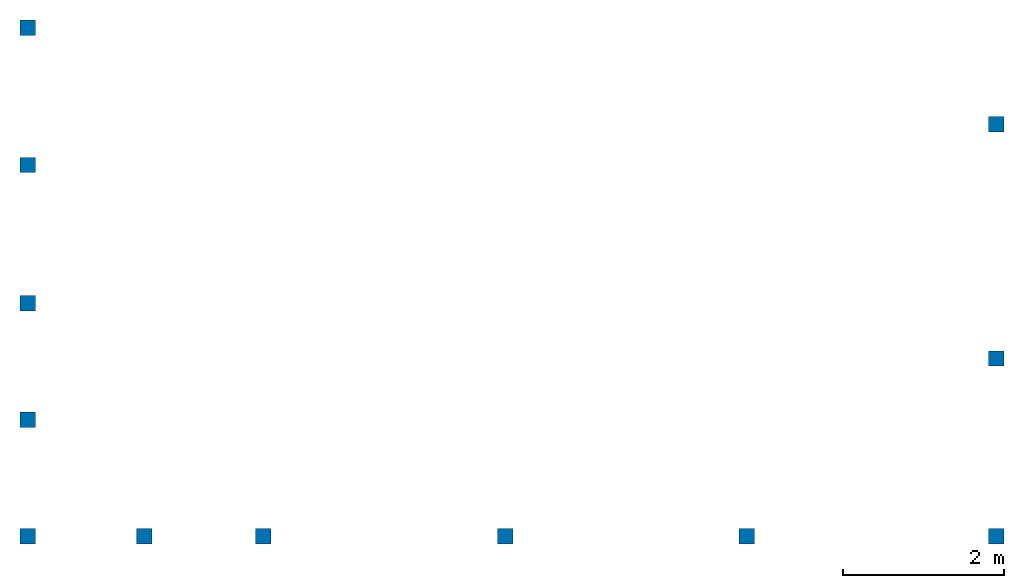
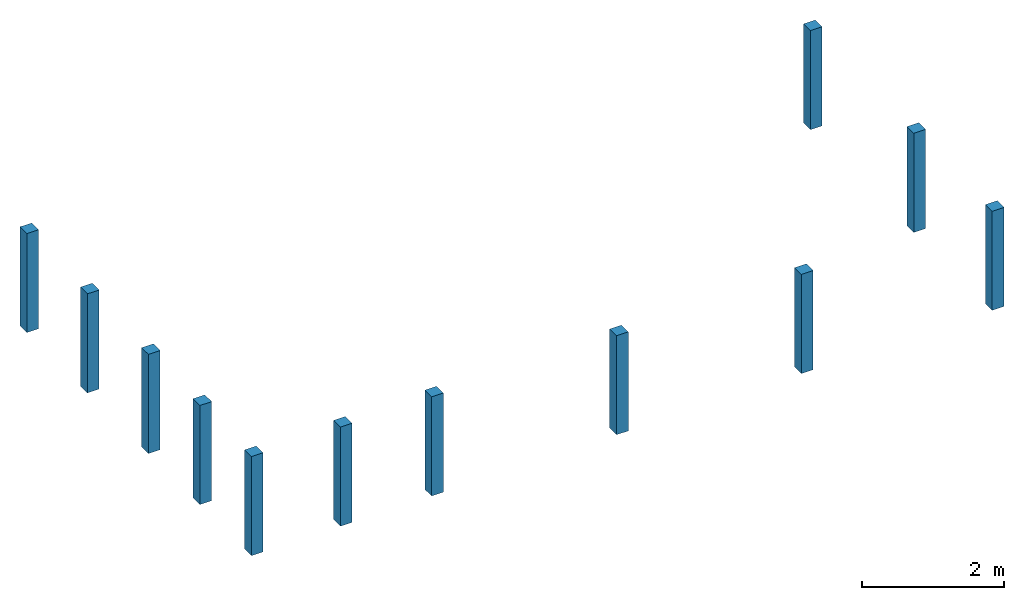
# One storey: 12 columns.
"""IFC2X3 building model written with IfcOpenShell, lengths in metres."""

from ifc_helpers import new_model, entity, si_unit, converted_unit, derived_unit, direction, frame, origin, origin_2d_with_axis, place, context, subcontext, project, spatial, rectangle, extrude, source, transform, mapped, material, type_object, type_shapes, element, save


model = new_model("IFC2X3")

# Units and contexts
model_context = context("Model", 3, precision=1e-05, world=origin(), true_north=direction((6.12303176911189e-17, 1.0)))
context_of_model = context(None, 3, precision=1e-05, world=origin(), true_north=direction((6.12303176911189e-17, 1.0)))
body_context = subcontext(model_context, "Body", "Model", "MODEL_VIEW")
ifc_project = project(units=[si_unit("LENGTHUNIT", "METRE"), si_unit("AREAUNIT", "SQUARE_METRE"), si_unit("VOLUMEUNIT", "CUBIC_METRE"), converted_unit("PLANEANGLEUNIT", "DEGREE", entity("IfcRatioMeasure", 0.0174532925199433), si_unit("PLANEANGLEUNIT", "RADIAN"), dimensions=[0, 0, 0, 0, 0, 0, 0]), si_unit("MASSUNIT", "GRAM", prefix="KILO"), si_unit("TIMEUNIT", "SECOND"), si_unit("FREQUENCYUNIT", "HERTZ"), si_unit("THERMODYNAMICTEMPERATUREUNIT", "DEGREE_CELSIUS"), derived_unit("THERMALTRANSMITTANCEUNIT", [(si_unit("MASSUNIT", "GRAM", prefix="KILO"), 1), (si_unit("THERMODYNAMICTEMPERATUREUNIT", "KELVIN"), -1), (si_unit("TIMEUNIT", "SECOND"), -3)]), derived_unit("VOLUMETRICFLOWRATEUNIT", [(si_unit("LENGTHUNIT", "METRE"), 3), (si_unit("TIMEUNIT", "SECOND"), -1)]), si_unit("ELECTRICCURRENTUNIT", "AMPERE"), si_unit("ELECTRICVOLTAGEUNIT", "VOLT"), si_unit("POWERUNIT", "WATT"), si_unit("FORCEUNIT", "NEWTON", prefix="KILO"), si_unit("ILLUMINANCEUNIT", "LUX"), si_unit("LUMINOUSFLUXUNIT", "LUMEN"), si_unit("LUMINOUSINTENSITYUNIT", "CANDELA"), si_unit("PRESSUREUNIT", "PASCAL")], contexts=[model_context, context_of_model])

# Site, building, storey
site_placement = place(None, origin())
site = spatial("IfcSite", under=ifc_project, at=site_placement, Name="Default", CompositionType="ELEMENT")
building_placement = place(site_placement, origin())
building = spatial("IfcBuilding", under=site, at=building_placement, CompositionType="ELEMENT")
storey_placement = place(building_placement, frame((0.0, 0.0, 3.89999999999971)))
storey = spatial("IfcBuildingStorey", under=building, at=storey_placement, Name="1 - Arase sup GC", CompositionType="ELEMENT", Elevation=3.89999999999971)

# Columns
ifc_material = material(Name="Bois - Bois de construction de dimensions courantes")
column_type = type_object("IfcColumnType", Name="191 x 191mm", PredefinedType="COLUMN", material=ifc_material)
shared_shape = source(origin(), body_context, "Body", "SweptSolid", [
    extrude(rectangle(XDim=0.190999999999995, YDim=0.191, at=origin_2d_with_axis()), frame((0.0955, 0.0954999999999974, 0.0), z_axis=(0.0, 0.0, 1.0), x_axis=(0.0, 1.0, 0.0)), (0.0, 0.0, 1.0), 1.7),
])
type_shapes(column_type, [shared_shape])
for number, where, name in (
    (1, (-5.1737146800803, -0.771684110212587, 0.0), "Poteau Bois:191 x 191mm"),
    (2, (6.84628531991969, -0.771684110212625, 0.0), "Poteau Bois:191 x 191mm"),
    (3, (3.75078531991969, -0.771684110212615, 0.0), "Poteau Bois:191 x 191mm"),
    (4, (0.750785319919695, -0.771684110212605, 0.0), "Poteau Bois:191 x 191mm"),
    (5, (-2.24921468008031, -0.771684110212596, 0.0), "Poteau Bois:191 x 191mm"),
    (6, (-3.7282146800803, -0.771684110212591, 0.0), "Poteau Bois:191 x 191mm"),
    (7, (-5.1737146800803, 0.673815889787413, 0.0), "Poteau Bois:191 x 191mm"),
    (8, (-5.17371468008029, 5.53731588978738, 0.0), "Poteau Bois:191 x 191mm"),
    (9, (-5.1737146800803, 2.11931588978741, 0.0), "Poteau Bois:191 x 191mm"),
    (10, (-5.17371468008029, 3.83281588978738, 0.0), "Poteau Bois:191 x 191mm"),
    (11, (6.8462853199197, 4.33731588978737, 0.0), "Poteau Bois:191 x 191mm"),
    (12, (6.8462853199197, 1.43281588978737, 0.0), "Poteau Bois:191 x 191mm"),
):
    element("IfcColumn", number, at=place(storey_placement, frame(where)), inside=storey, type_object=column_type, material=ifc_material, Name=name, ObjectType="191 x 191mm", context=body_context, shape_type="MappedRepresentation", body=[
        mapped(shared_shape, transform((0.0, 0.0, 0.0), scale=1.0)),
    ])

save(model, "model.ifc")
